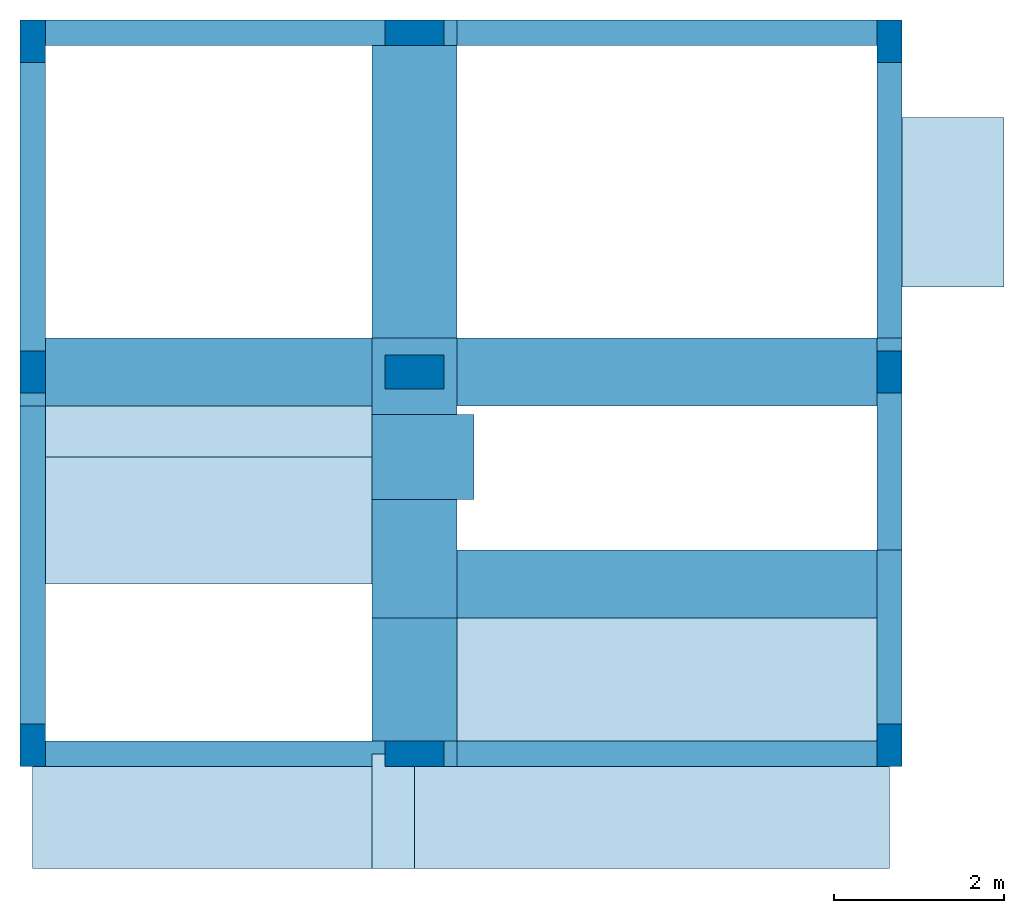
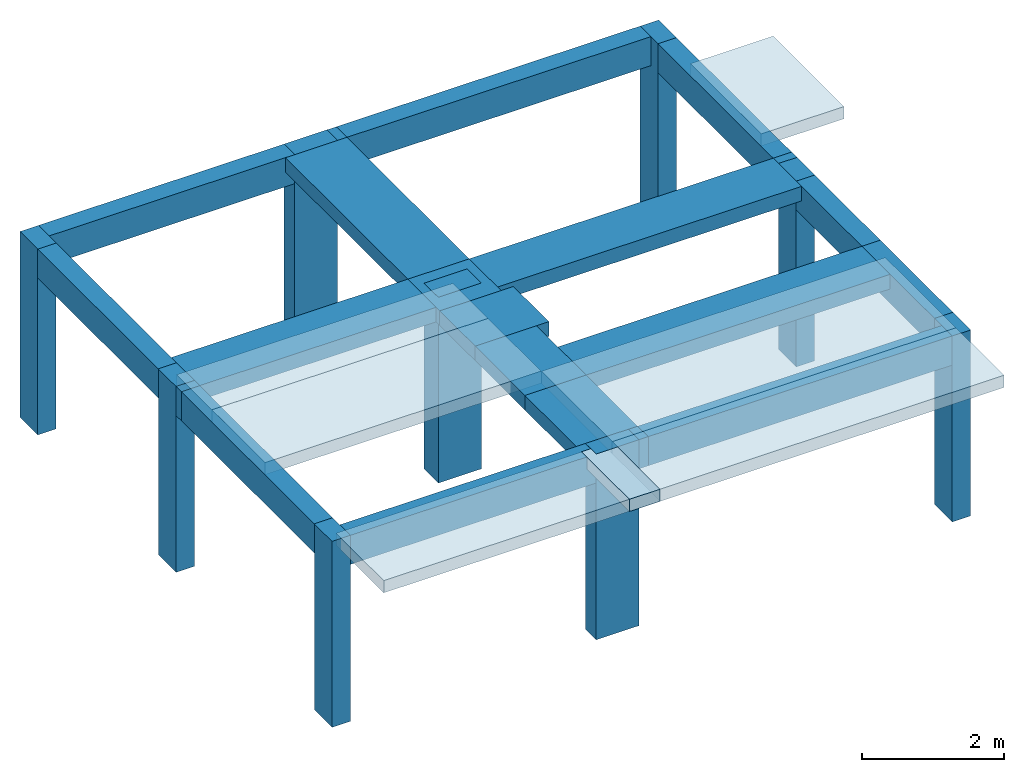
# One storey, incomplete: 17 beams, 9 columns, 7 slabs.
"""IFC2X3 building model written with IfcOpenShell, lengths in metres."""

from ifc_helpers import new_model, si_unit, direction, frame, origin, origin_2d_with_axis, place, context, project, spatial, polyline, rectangle, outline, extrude, shape, element, save


model = new_model("IFC2X3")

# Units and contexts
model_context = context("Model", 3, precision=0.0, world=origin(), true_north=direction((0.0, 1.0)))
plan_context = context("Plan", 3, precision=0.0, world=origin(), true_north=direction((0.0, 1.0)))
ifc_project = project(units=[si_unit("LENGTHUNIT", "METRE"), si_unit("AREAUNIT", "SQUARE_METRE"), si_unit("VOLUMEUNIT", "CUBIC_METRE"), si_unit("PLANEANGLEUNIT", "RADIAN"), si_unit("THERMODYNAMICTEMPERATUREUNIT", "DEGREE_CELSIUS"), si_unit("FORCEUNIT", "NEWTON"), si_unit("MASSUNIT", "GRAM", prefix="KILO")], contexts=[model_context, plan_context])

# Site, building, storey
placement = place(None, origin())
site = spatial("IfcSite", under=ifc_project, at=placement, Name="Default Site", CompositionType="ELEMENT")
building = spatial("IfcBuilding", under=site, at=placement, Name="Default Building", CompositionType="ELEMENT")
storey_placement = place(placement, frame((0.0, 0.0, 3.2), z_axis=(1.0, 0.0, 0.0), x_axis=(0.0, 0.0, 1.0)))
storey = spatial("IfcBuildingStorey", under=building, at=storey_placement, Name="Piano 1", CompositionType="ELEMENT", Elevation=3.2)

# Columns
column_1_placement = place(None, frame((0.0, 0.1, 3.2), z_axis=(0.0, 0.0, -1.0), x_axis=(-1.0, 0.0, 0.0)))
element("IfcColumn", 1, at=column_1_placement, inside=storey, Name="Pilastro:1 [Piano:1]", shapes=[
    shape(model_context, None, "SweptSolid", [extrude(rectangle(XDim=0.3, YDim=0.5, at=origin_2d_with_axis()), origin(), (0.0, 0.0, 1.0), 3.2)]),
])
column_2_placement = place(None, frame((4.5, 0.0, 3.2), z_axis=(0.0, 0.0, -1.0), x_axis=(-1.0, 0.0, 0.0)))
element("IfcColumn", 2, at=column_2_placement, inside=storey, Name="Pilastro:2 [Piano:1]", shapes=[
    shape(model_context, None, "SweptSolid", [extrude(rectangle(XDim=0.7, YDim=0.3, at=origin_2d_with_axis()), origin(), (0.0, 0.0, 1.0), 3.2)]),
])
for number, where, z_axis, x_axis, name in (
    (3, (10.1, 0.1, 3.2), (0.0, 0.0, -1.0), (-1.0, 0.0, 0.0), "Pilastro:3 [Piano:1]"),
    (4, (0.0, 4.5, 3.2), (0.0, 0.0, -1.0), (-1.0, 0.0, 0.0), "Pilastro:4 [Piano:1]"),
):
    element("IfcColumn", number, at=place(None, frame(where, z_axis=z_axis, x_axis=x_axis)), inside=storey, Name=name, shapes=[
        shape(model_context, None, "SweptSolid", [extrude(rectangle(XDim=0.3, YDim=0.5, at=origin_2d_with_axis()), origin(), (0.0, 0.0, 1.0), 3.2)]),
    ])
column_3_placement = place(None, frame((4.5, 4.5, 3.2), z_axis=(0.0, 0.0, -1.0), x_axis=(-1.0, 0.0, 0.0)))
element("IfcColumn", 5, at=column_3_placement, inside=storey, Name="Pilastro:5 [Piano:1]", shapes=[
    shape(model_context, None, "SweptSolid", [extrude(rectangle(XDim=0.7, YDim=0.4, at=origin_2d_with_axis()), origin(), (0.0, 0.0, 1.0), 3.2)]),
])
for number, where, z_axis, x_axis, name in (
    (6, (10.1, 4.5, 3.2), (0.0, 0.0, -1.0), (-1.0, 0.0, 0.0), "Pilastro:6 [Piano:1]"),
    (7, (0.0, 8.4, 3.2), (0.0, 0.0, -1.0), (-1.0, 0.0, 0.0), "Pilastro:7 [Piano:1]"),
):
    element("IfcColumn", number, at=place(None, frame(where, z_axis=z_axis, x_axis=x_axis)), inside=storey, Name=name, shapes=[
        shape(model_context, None, "SweptSolid", [extrude(rectangle(XDim=0.3, YDim=0.5, at=origin_2d_with_axis()), origin(), (0.0, 0.0, 1.0), 3.2)]),
    ])
column_4_placement = place(None, frame((4.5, 8.5, 3.2), z_axis=(0.0, 0.0, -1.0), x_axis=(-1.0, 0.0, 0.0)))
element("IfcColumn", 8, at=column_4_placement, inside=storey, Name="Pilastro:8 [Piano:1]", shapes=[
    shape(model_context, None, "SweptSolid", [extrude(rectangle(XDim=0.7, YDim=0.3, at=origin_2d_with_axis()), origin(), (0.0, 0.0, 1.0), 3.2)]),
])
column_5_placement = place(None, frame((10.1, 8.4, 3.2), z_axis=(0.0, 0.0, -1.0), x_axis=(-1.0, 0.0, 0.0)))
element("IfcColumn", 9, at=column_5_placement, inside=storey, Name="Pilastro:9 [Piano:1]", shapes=[
    shape(model_context, None, "SweptSolid", [extrude(rectangle(XDim=0.3, YDim=0.5, at=origin_2d_with_axis()), origin(), (0.0, 0.0, 1.0), 3.2)]),
])

# Beams
beam_1_placement = place(None, frame((-0.15, 0.0, 2.95), z_axis=(1.0, 0.0, 0.0), x_axis=(0.0, 1.0, 0.0)))
element("IfcBeam", 10, at=beam_1_placement, inside=storey, Name="Trave:1 [Piano:1]", shapes=[
    shape(model_context, None, "SweptSolid", [extrude(rectangle(XDim=0.3, YDim=0.5, at=origin_2d_with_axis()), origin(), (0.0, 0.0, 1.0), 5.15)]),
])
beam_2_placement = place(None, frame((4.0, 0.0, 2.95), z_axis=(1.0, 0.0, 0.0), x_axis=(0.0, 1.0, 0.0)))
element("IfcBeam", 11, at=beam_2_placement, inside=storey, Name="Trave:2 [Piano:1]", shapes=[
    shape(model_context, None, "SweptSolid", [extrude(rectangle(XDim=0.3, YDim=0.5, at=origin_2d_with_axis()), origin(), (0.0, 0.0, 1.0), 6.25)]),
])
beam_3_placement = place(None, frame((-0.15, 4.5, 3.075), z_axis=(1.0, 0.0, 0.0), x_axis=(0.0, 1.0, 0.0)))
element("IfcBeam", 12, at=beam_3_placement, inside=storey, Name="Trave:3 [Piano:1]", shapes=[
    shape(model_context, None, "SweptSolid", [extrude(rectangle(XDim=0.8, YDim=0.25, at=origin_2d_with_axis()), origin(), (0.0, 0.0, 1.0), 5.15)]),
])
beam_4_placement = place(None, frame((4.0, 4.5, 3.075), z_axis=(1.0, 0.0, 0.0), x_axis=(0.0, 1.0, 0.0)))
element("IfcBeam", 13, at=beam_4_placement, inside=storey, Name="Trave:4 [Piano:1]", shapes=[
    shape(model_context, None, "SweptSolid", [extrude(rectangle(XDim=0.8, YDim=0.25, at=origin_2d_with_axis()), origin(), (0.0, 0.0, 1.0), 6.25)]),
])
beam_5_placement = place(None, frame((-0.15, 8.5, 2.95), z_axis=(1.0, 0.0, 0.0), x_axis=(0.0, 1.0, 0.0)))
element("IfcBeam", 14, at=beam_5_placement, inside=storey, Name="Trave:5 [Piano:1]", shapes=[
    shape(model_context, None, "SweptSolid", [extrude(rectangle(XDim=0.3, YDim=0.5, at=origin_2d_with_axis()), origin(), (0.0, 0.0, 1.0), 5.15)]),
])
beam_6_placement = place(None, frame((4.0, 8.5, 2.95), z_axis=(1.0, 0.0, 0.0), x_axis=(0.0, 1.0, 0.0)))
element("IfcBeam", 15, at=beam_6_placement, inside=storey, Name="Trave:6 [Piano:1]", shapes=[
    shape(model_context, None, "SweptSolid", [extrude(rectangle(XDim=0.3, YDim=0.5, at=origin_2d_with_axis()), origin(), (0.0, 0.0, 1.0), 6.25)]),
])
beam_7_placement = place(None, frame((0.0, -0.15, 2.95), z_axis=(0.0, 1.0, 0.0), x_axis=(-1.0, 0.0, 0.0)))
element("IfcBeam", 16, at=beam_7_placement, inside=storey, Name="Trave:7 [Piano:1]", shapes=[
    shape(model_context, None, "SweptSolid", [extrude(rectangle(XDim=0.3, YDim=0.5, at=origin_2d_with_axis()), origin(), (0.0, 0.0, 1.0), 5.05)]),
])
beam_8_placement = place(None, frame((0.0, 4.1, 2.95), z_axis=(0.0, 1.0, 0.0), x_axis=(-1.0, 0.0, 0.0)))
element("IfcBeam", 17, at=beam_8_placement, inside=storey, Name="Trave:8 [Piano:1]", shapes=[
    shape(model_context, None, "SweptSolid", [extrude(rectangle(XDim=0.3, YDim=0.5, at=origin_2d_with_axis()), origin(), (0.0, 0.0, 1.0), 4.55)]),
])
beam_9_placement = place(None, frame((10.1, -0.15, 2.95), z_axis=(0.0, 1.0, 0.0), x_axis=(-1.0, 0.0, 0.0)))
element("IfcBeam", 18, at=beam_9_placement, inside=storey, Name="Trave:9 [Piano:1]", shapes=[
    shape(model_context, None, "SweptSolid", [extrude(rectangle(XDim=0.3, YDim=0.5, at=origin_2d_with_axis()), origin(), (0.0, 0.0, 1.0), 2.55)]),
])
beam_10_placement = place(None, frame((10.1, 4.1, 2.95), z_axis=(0.0, 1.0, 0.0), x_axis=(-1.0, 0.0, 0.0)))
element("IfcBeam", 19, at=beam_10_placement, inside=storey, Name="Trave:10 [Piano:1]", shapes=[
    shape(model_context, None, "SweptSolid", [extrude(rectangle(XDim=0.3, YDim=0.5, at=origin_2d_with_axis()), origin(), (0.0, 0.0, 1.0), 4.55)]),
])
beam_11_placement = place(None, frame((4.0, 3.5, 3.075), z_axis=(1.0, 0.0, 0.0), x_axis=(0.0, 1.0, 0.0)))
element("IfcBeam", 20, at=beam_11_placement, inside=storey, Name="Trave:11 [Piano:1]", shapes=[
    shape(model_context, None, "SweptSolid", [extrude(rectangle(XDim=1.0, YDim=0.25, at=origin_2d_with_axis()), origin(), (0.0, 0.0, 1.0), 1.2)]),
])
beam_12_placement = place(None, frame((4.5, -0.15, 3.075), z_axis=(0.0, 1.0, 0.0), x_axis=(-1.0, 0.0, 0.0)))
element("IfcBeam", 21, at=beam_12_placement, inside=storey, Name="Trave:12 [Piano:1]", shapes=[
    shape(model_context, None, "SweptSolid", [extrude(rectangle(XDim=1.0, YDim=0.25, at=origin_2d_with_axis()), origin(), (0.0, 0.0, 1.0), 2.55)]),
])
beam_13_placement = place(None, frame((4.5, 4.1, 3.075), z_axis=(0.0, 1.0, 0.0), x_axis=(-1.0, 0.0, 0.0)))
element("IfcBeam", 22, at=beam_13_placement, inside=storey, Name="Trave:13 [Piano:1]", shapes=[
    shape(model_context, None, "SweptSolid", [extrude(rectangle(XDim=1.0, YDim=0.25, at=origin_2d_with_axis()), origin(), (0.0, 0.0, 1.0), 4.55)]),
])
beam_14_placement = place(None, frame((4.5, 3.0, 3.075), z_axis=(0.0, 1.0, 0.0), x_axis=(-1.0, 0.0, 0.0)))
element("IfcBeam", 23, at=beam_14_placement, inside=storey, Name="Trave:14 [Piano:1]", shapes=[
    shape(model_context, None, "SweptSolid", [extrude(rectangle(XDim=1.0, YDim=0.25, at=origin_2d_with_axis()), origin(), (0.0, 0.0, 1.0), 1.9)]),
])
beam_15_placement = place(None, frame((4.5, 1.6, 3.075), z_axis=(0.0, 1.0, 0.0), x_axis=(-1.0, 0.0, 0.0)))
element("IfcBeam", 24, at=beam_15_placement, inside=storey, Name="Trave:15 [Piano:1]", shapes=[
    shape(model_context, None, "SweptSolid", [extrude(rectangle(XDim=1.0, YDim=0.25, at=origin_2d_with_axis()), origin(), (0.0, 0.0, 1.0), 2.4)]),
])
beam_16_placement = place(None, frame((10.1, 1.6, 2.95), z_axis=(0.0, 1.0, 0.0), x_axis=(-1.0, 0.0, 0.0)))
element("IfcBeam", 25, at=beam_16_placement, inside=storey, Name="Trave:16 [Piano:1]", shapes=[
    shape(model_context, None, "SweptSolid", [extrude(rectangle(XDim=0.3, YDim=0.5, at=origin_2d_with_axis()), origin(), (0.0, 0.0, 1.0), 3.3)]),
])
beam_17_placement = place(None, frame((4.0, 2.0, 3.075), z_axis=(1.0, 0.0, 0.0), x_axis=(0.0, 1.0, 0.0)))
element("IfcBeam", 26, at=beam_17_placement, inside=storey, Name="Trave:17 [Piano:1]", shapes=[
    shape(model_context, None, "SweptSolid", [extrude(rectangle(XDim=0.8, YDim=0.25, at=origin_2d_with_axis()), origin(), (0.0, 0.0, 1.0), 6.25)]),
])

# Slabs
slab_1_placement = place(None, frame((2.25, 4.0, 3.2), z_axis=(0.0, 0.0, -1.0), x_axis=(-1.0, 0.0, 0.0)))
element("IfcSlab", 27, at=slab_1_placement, inside=storey, Name="Solaio:2 [Piano:1]", PredefinedType="FLOOR", shapes=[
    shape(model_context, None, "SweptSolid", [extrude(outline(polyline([(-2.25, 0.5), (-2.25, -0.5), (2.25, -0.5), (2.25, 0.5)])), origin(), (0.0, 0.0, 1.0), 0.21)]),
])
slab_2_placement = place(None, frame((2.25, 2.75, 3.2), z_axis=(0.0, 0.0, -1.0), x_axis=(-1.0, 0.0, 0.0)))
element("IfcSlab", 28, at=slab_2_placement, inside=storey, Name="Solaio:3 [Piano:1]", PredefinedType="FLOOR", shapes=[
    shape(model_context, None, "SweptSolid", [extrude(outline(polyline([(-2.25, 0.75), (-2.25, -0.75), (2.25, -0.75), (2.25, 0.75)])), origin(), (0.0, 0.0, 1.0), 0.21)]),
])
slab_3_placement = place(None, frame((7.3, 1.0, 3.2), z_axis=(0.0, 0.0, -1.0), x_axis=(-1.0, 0.0, 0.0)))
element("IfcSlab", 29, at=slab_3_placement, inside=storey, Name="Solaio:4 [Piano:1]", PredefinedType="FLOOR", shapes=[
    shape(model_context, None, "SweptSolid", [extrude(outline(polyline([(-2.8, -1.0), (2.8, -1.0), (2.8, 1.0), (-2.8, 1.0)])), origin(), (0.0, 0.0, 1.0), 0.21)]),
])
slab_4_placement = place(None, frame((4.25, -0.675, 3.2), z_axis=(0.0, 0.0, -1.0), x_axis=(-1.0, 0.0, 0.0)))
element("IfcSlab", 30, at=slab_4_placement, inside=storey, Name="Balcone:1 [Piano:1]", PredefinedType="FLOOR", shapes=[
    shape(model_context, None, "SweptSolid", [extrude(outline(polyline([(0.25, 0.675), (-0.25, 0.675), (-0.25, -0.675), (0.25, -0.675)])), origin(), (0.0, 0.0, 1.0), 0.21)]),
])
slab_5_placement = place(None, frame((7.3, -0.675, 3.2), z_axis=(0.0, 0.0, -1.0), x_axis=(-1.0, 0.0, 0.0)))
element("IfcSlab", 31, at=slab_5_placement, inside=storey, Name="Balcone:3 [Piano:1]", PredefinedType="FLOOR", shapes=[
    shape(model_context, None, "SweptSolid", [extrude(outline(polyline([(2.8, 0.675), (-2.8, 0.675), (-2.8, -0.675), (2.8, -0.675)])), origin(), (0.0, 0.0, 1.0), 0.21)]),
])
slab_6_placement = place(None, frame((10.775, 6.5, 3.2), z_axis=(0.0, 0.0, -1.0), x_axis=(-1.0, 0.0, 0.0)))
element("IfcSlab", 32, at=slab_6_placement, inside=storey, Name="Balcone:5 [Piano:1]", PredefinedType="FLOOR", shapes=[
    shape(model_context, None, "SweptSolid", [extrude(outline(polyline([(0.675, -1.0), (0.675, 1.0), (-0.675, 1.0), (-0.675, -1.0)])), origin(), (0.0, 0.0, 1.0), 0.21)]),
])
slab_7_placement = place(None, frame((2.0, -0.675, 3.2), z_axis=(0.0, 0.0, -1.0), x_axis=(-1.0, 0.0, 0.0)))
element("IfcSlab", 33, at=slab_7_placement, inside=storey, Name="Balcone:7 [Piano:1]", PredefinedType="FLOOR", shapes=[
    shape(model_context, None, "SweptSolid", [extrude(outline(polyline([(2.0, 0.675), (-2.0, 0.675), (-2.0, -0.675), (2.0, -0.675)])), origin(), (0.0, 0.0, 1.0), 0.21)]),
])

save(model, "model.ifc")
